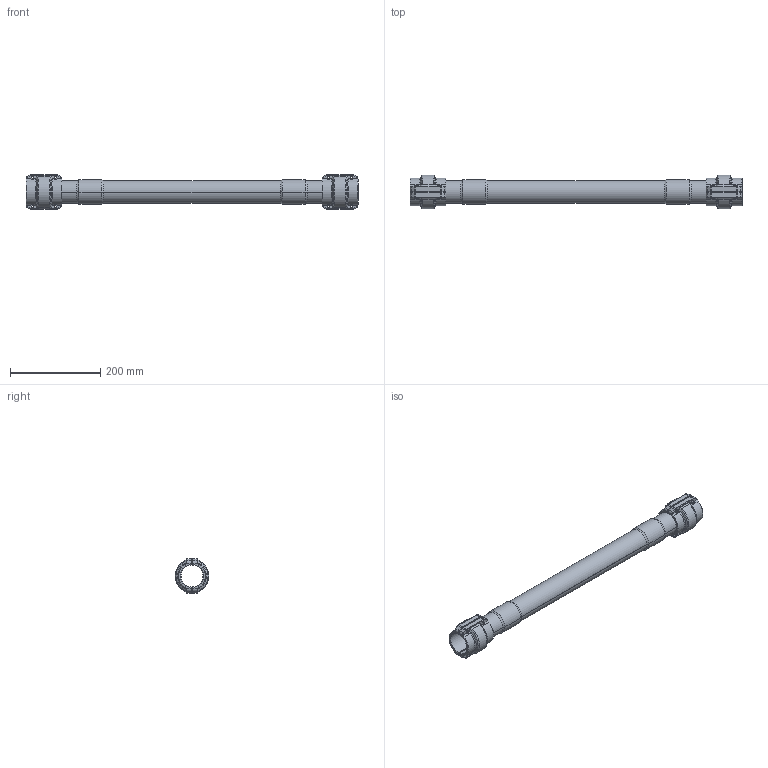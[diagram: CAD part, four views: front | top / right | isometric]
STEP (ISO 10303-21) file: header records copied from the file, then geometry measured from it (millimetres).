
FILE_DESCRIPTION((''),'2;1');
FILE_NAME('2015505599_ASM','2017-05-12T',('Administrator'),(''),'PRO/ENGINEER BY PARAMETRIC TECHNOLOGY CORPORATION, 2009360','PRO/ENGINEER BY PARAMETRIC TECHNOLOGY CORPORATION, 2009360','');
FILE_SCHEMA(('AUTOMOTIVE_DESIGN_CC2 { 1 2 10303 214 -1 1 5 2 }'));
Length unit declared in the file: millimetre
Products named in the file (5): 2015505500; 201550020001; 201550020000; 2015500200_ASM; 2015505599_ASM
Assembly tree (5 placements, depth 3):
  2015505599_ASM
    2015505500
    2015500200_ASM  x2
      201550020001
      201550020000
Bounding box: 734 x 74.3 x 77 mm (x, y, z)
Volume: 403394.5 mm3; surface area: 280826.6 mm2
Topology: 5 solids, 5 shells, 446 faces, 1124 edges, 688 vertices
Faces by surface type: cylinder 196, torus 104, plane 74, bspline 48, sphere 16, cone 8
Entity records: 9848 total; most frequent: CARTESIAN_POINT 2423, DIRECTION 1200, ORIENTED_EDGE 1168, PRESENTATION_STYLE_ASSIGNMENT 587, STYLED_ITEM 587, CURVE_STYLE 584, EDGE_CURVE 584, AXIS2_PLACEMENT_3D 502
